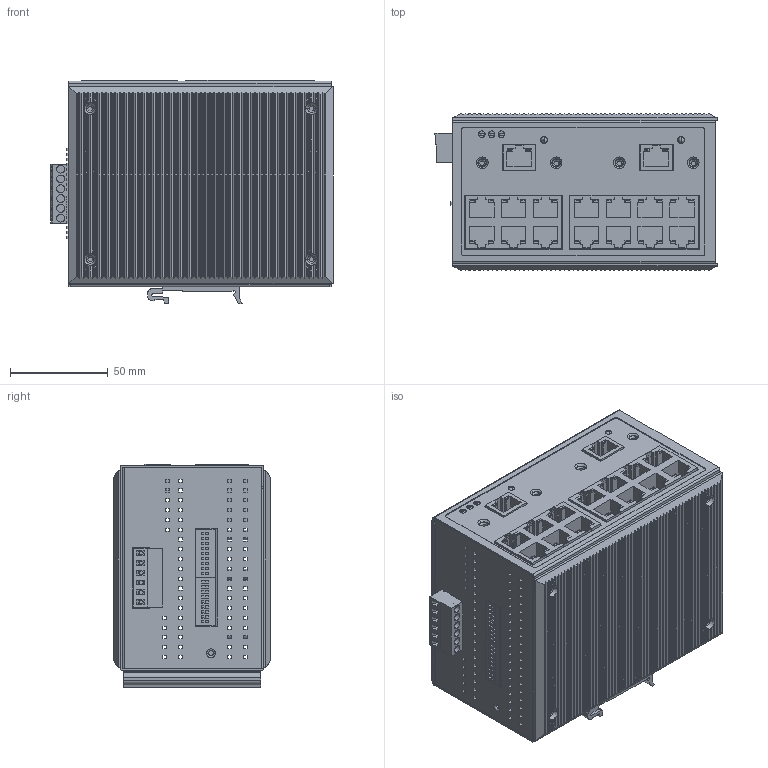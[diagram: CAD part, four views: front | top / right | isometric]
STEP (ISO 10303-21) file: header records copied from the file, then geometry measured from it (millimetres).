
FILE_DESCRIPTION((''),'2;1');
FILE_NAME('EDS-316','2010-08-19T',('Chialu_Chang'),(''),'PRO/ENGINEER BY PARAMETRIC TECHNOLOGY CORPORATION, 2004440','PRO/ENGINEER BY PARAMETRIC TECHNOLOGY CORPORATION, 2004440','');
FILE_SCHEMA(('CONFIG_CONTROL_DESIGN'));
Products named in the file (1): EDS-316
Bounding box: 144.04 x 80.18 x 114.2 mm (x, y, z)
Surface area: 298829.2 mm2 (no closed solid volume)
Topology: 0 solids, 38 shells, 4111 faces, 10666 edges, 7001 vertices
Faces by surface type: plane 2837, cylinder 1172, torus 62, cone 36, bspline 4
Entity records: 125925 total; most frequent: CARTESIAN_POINT 23711, ORIENTED_EDGE 21332, DIRECTION 20308, EDGE_CURVE 10666, VECTOR 7880, LINE 7880, VERTEX_POINT 7001, AXIS2_PLACEMENT_3D 6214
